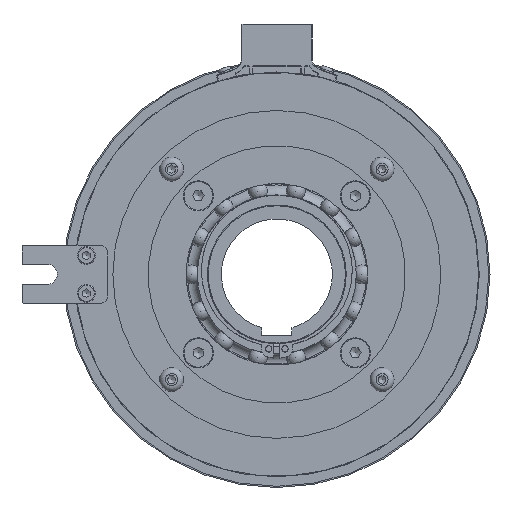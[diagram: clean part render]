
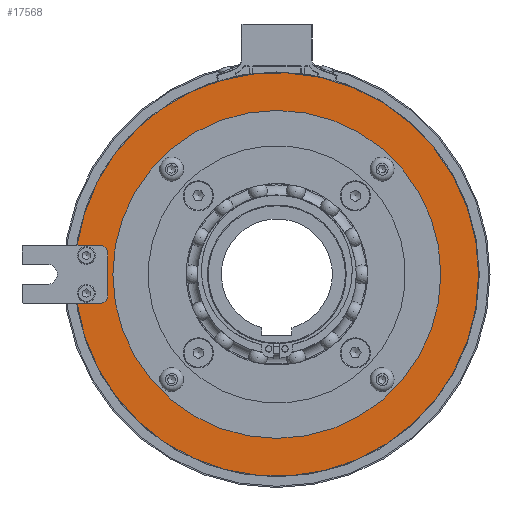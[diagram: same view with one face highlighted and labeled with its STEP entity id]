
A CAD part, left-side view. The second image highlights one B-rep face of the part: STEP entity #17568.
In plain terms, the highlighted planar face has unit normal (-1, 0, 0).
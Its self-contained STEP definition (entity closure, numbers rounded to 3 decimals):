
#573=PLANE('',#19138);
#840=FACE_BOUND('',#2821,.T.);
#1811=FACE_OUTER_BOUND('',#2820,.T.);
#2820=EDGE_LOOP('',(#13358,#13359,#13360,#13361,#13362,#13363,#13364,#13365));
#2821=EDGE_LOOP('',(#13366,#13367));
#3453=CIRCLE('',#18085,80.);
#3456=CIRCLE('',#18088,80.);
#3473=CIRCLE('',#18115,80.);
#3958=CIRCLE('',#18867,3.);
#3960=CIRCLE('',#18871,3.);
#4114=CIRCLE('',#19139,65.);
#4115=CIRCLE('',#19140,65.);
#4978=LINE('',#29975,#5772);
#4988=LINE('',#30003,#5782);
#5000=LINE('',#30033,#5794);
#5772=VECTOR('',#22058,10.);
#5782=VECTOR('',#22084,10.);
#5794=VECTOR('',#22116,10.);
#6366=VERTEX_POINT('',#25520);
#6371=VERTEX_POINT('',#25530);
#6372=VERTEX_POINT('',#25532);
#6374=VERTEX_POINT('',#25536);
#7038=VERTEX_POINT('',#29973);
#7045=VERTEX_POINT('',#29993);
#7048=VERTEX_POINT('',#30001);
#7049=VERTEX_POINT('',#30005);
#7288=VERTEX_POINT('',#30826);
#7289=VERTEX_POINT('',#30827);
#8243=EDGE_CURVE('',#6372,#6371,#3453,.T.);
#8246=EDGE_CURVE('',#6366,#6374,#3456,.T.);
#8284=EDGE_CURVE('',#6371,#6366,#3473,.T.);
#9158=EDGE_CURVE('',#6374,#7038,#4978,.T.);
#9167=EDGE_CURVE('',#7038,#7045,#3958,.T.);
#9172=EDGE_CURVE('',#7045,#7048,#4988,.T.);
#9173=EDGE_CURVE('',#7048,#7049,#3960,.T.);
#9188=EDGE_CURVE('',#7049,#6372,#5000,.T.);
#9504=EDGE_CURVE('',#7288,#7289,#4114,.T.);
#9505=EDGE_CURVE('',#7289,#7288,#4115,.T.);
#13358=ORIENTED_EDGE('',*,*,#9188,.T.);
#13359=ORIENTED_EDGE('',*,*,#8243,.T.);
#13360=ORIENTED_EDGE('',*,*,#8284,.T.);
#13361=ORIENTED_EDGE('',*,*,#8246,.T.);
#13362=ORIENTED_EDGE('',*,*,#9158,.T.);
#13363=ORIENTED_EDGE('',*,*,#9167,.T.);
#13364=ORIENTED_EDGE('',*,*,#9172,.T.);
#13365=ORIENTED_EDGE('',*,*,#9173,.T.);
#13366=ORIENTED_EDGE('',*,*,#9504,.T.);
#13367=ORIENTED_EDGE('',*,*,#9505,.T.);
#17568=ADVANCED_FACE('',(#1811,#840),#573,.T.);
#18085=AXIS2_PLACEMENT_3D('',#25533,#20307,#20308);
#18088=AXIS2_PLACEMENT_3D('',#25538,#20313,#20314);
#18115=AXIS2_PLACEMENT_3D('',#25718,#20379,#20380);
#18867=AXIS2_PLACEMENT_3D('',#29994,#22075,#22076);
#18871=AXIS2_PLACEMENT_3D('',#30006,#22087,#22088);
#19138=AXIS2_PLACEMENT_3D('',#30825,#22753,#22754);
#19139=AXIS2_PLACEMENT_3D('',#30828,#22755,#22756);
#19140=AXIS2_PLACEMENT_3D('',#30829,#22757,#22758);
#20307=DIRECTION('center_axis',(-1.,0.,0.));
#20308=DIRECTION('ref_axis',(0.,1.,0.));
#20313=DIRECTION('center_axis',(-1.,0.,0.));
#20314=DIRECTION('ref_axis',(0.,1.,0.));
#20379=DIRECTION('center_axis',(-1.,0.,0.));
#20380=DIRECTION('ref_axis',(0.,1.,0.));
#22058=DIRECTION('',(0.,-1.,0.));
#22075=DIRECTION('center_axis',(1.,0.,0.));
#22076=DIRECTION('ref_axis',(0.,-0.707,0.707));
#22084=DIRECTION('',(0.,0.,-1.));
#22087=DIRECTION('center_axis',(1.,0.,0.));
#22088=DIRECTION('ref_axis',(0.,-0.707,-0.707));
#22116=DIRECTION('',(0.,1.,0.));
#22753=DIRECTION('center_axis',(-1.,0.,0.));
#22754=DIRECTION('ref_axis',(0.,0.,
1.));
#22755=DIRECTION('center_axis',(1.,0.,0.));
#22756=DIRECTION('ref_axis',(0.,1.,0.));
#22757=DIRECTION('center_axis',(1.,0.,0.));
#22758=DIRECTION('ref_axis',(0.,1.,0.));
#25520=CARTESIAN_POINT('',(-45.,9.676,79.413));
#25530=CARTESIAN_POINT('',(-45.,-80.,0.));
#25532=CARTESIAN_POINT('',(-45.,79.169,-11.5));
#25533=CARTESIAN_POINT('Origin',(-45.,0.,
0.));
#25536=CARTESIAN_POINT('',(-45.,79.169,11.5));
#25538=CARTESIAN_POINT('Origin',(-45.,0.,
0.));
#25718=CARTESIAN_POINT('Origin',(-45.,0.,
0.));
#29973=CARTESIAN_POINT('',(-45.,70.,11.5));
#29975=CARTESIAN_POINT('',(-45.,67.25,11.5));
#29993=CARTESIAN_POINT('',(-45.,67.,8.5));
#29994=CARTESIAN_POINT('Origin',(-45.,70.,8.5));
#30001=CARTESIAN_POINT('',(-45.,67.,-8.5));
#30003=CARTESIAN_POINT('',(-45.,67.,-5.75));
#30005=CARTESIAN_POINT('',(-45.,70.,-11.5));
#30006=CARTESIAN_POINT('Origin',(-45.,70.,-8.5));
#30033=CARTESIAN_POINT('',(-45.,84.25,-11.5));
#30825=CARTESIAN_POINT('Origin',(-45.,67.5,0.));
#30826=CARTESIAN_POINT('',(-45.,65.,0.));
#30827=CARTESIAN_POINT('',(-45.,-65.,0.));
#30828=CARTESIAN_POINT('Origin',(-45.,0.,
0.));
#30829=CARTESIAN_POINT('Origin',(-45.,0.,
0.));
